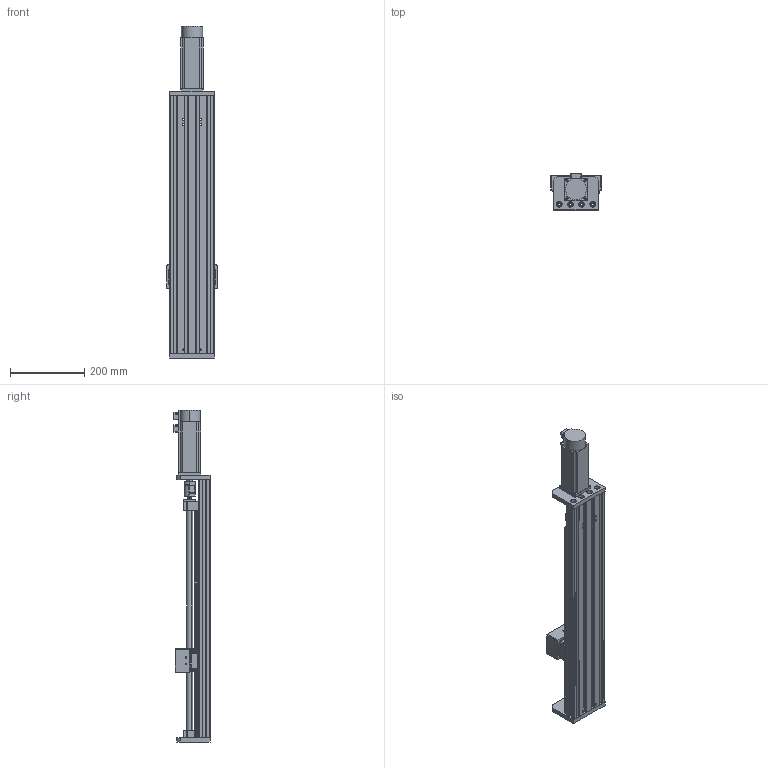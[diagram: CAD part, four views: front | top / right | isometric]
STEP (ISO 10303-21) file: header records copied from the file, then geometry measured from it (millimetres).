
FILE_DESCRIPTION (( 'STEP AP214' ), '1' );
FILE_NAME ('JYD120.STEP', '2019-11-09T00:53:00', ( '微软用户' ), ( '微软中国' ), 'SwSTEP 2.0', 'SolidWorks 2016', '' );
FILE_SCHEMA (( 'AUTOMOTIVE_DESIGN' ));
Length unit declared in the file: millimetre
Products named in the file (20): 60机座海德伺服电机; 賑雄啣2; 萇儂啣; SFU1604-3; EGR15賑輸; EGR15絳寢; 16H; 30-42薊粣ん; BK12; 长撑圈-12; 撑圈-12; ѹȦ-12; deep groove ball bearings gb_Rolling bearings 6001 GB 276-94; BF12; 16佪裝; 30120; hexagon socket head cap screws gb_GB_FASTENER_SCREWS_HSHCS M5X10-N; JYD120; 耜啣
Assembly tree (27 placements, depth 3):
  JYD120
    30120
    16佪裝
    BF12
    BK12
      BK12
      deep groove ball bearings gb_Rolling bearings 6001 GB 276-94  x2
      ѹȦ-12
      撑圈-12
      长撑圈-12
    30-42薊粣ん
    16H
    EGR15絳寢  x2
    EGR15賑輸  x2
    SFU1604-3
    萇儂啣
    賑雄啣2
    60机座海德伺服电机
    耜啣
    hexagon socket head cap screws gb_GB_FASTENER_SCREWS_HSHCS M5X10-N  x6
Bounding box: 135 x 96.95 x 893 mm (x, y, z)
Volume: 2329480.8 mm3; surface area: 1014537 mm2
Topology: 24 solids, 50 shells, 4806 faces, 17399 edges, 11812 vertices
Faces by surface type: plane 2144, bspline 1175, cylinder 995, cone 206, torus 182, sphere 104
Entity records: 152067 total; most frequent: CARTESIAN_POINT 50875, ORIENTED_EDGE 18108, DIRECTION 14368, EDGE_CURVE 10178, VERTEX_POINT 6905, VECTOR 5632, LINE 5632, AXIS2_PLACEMENT_3D 4368
